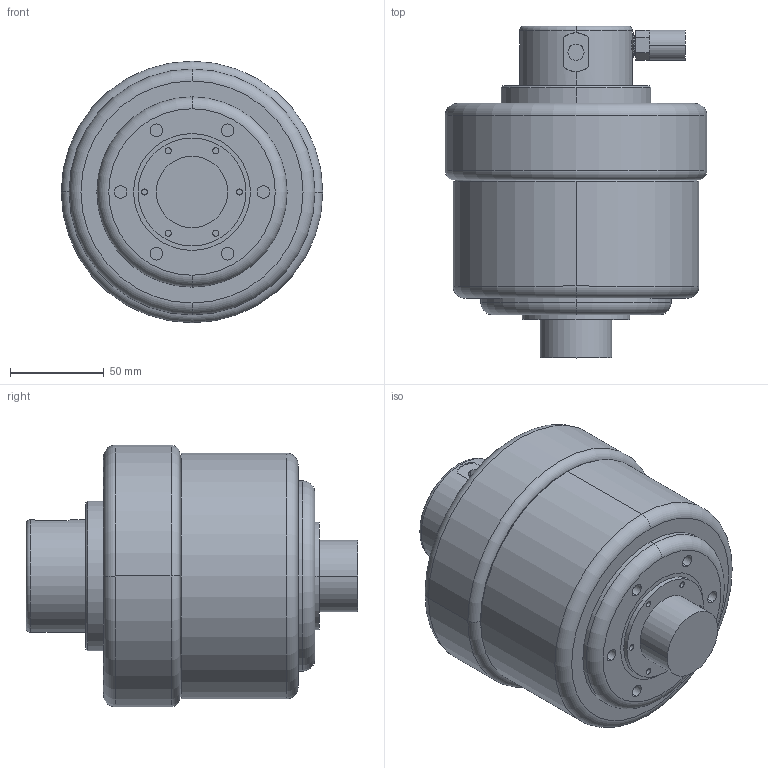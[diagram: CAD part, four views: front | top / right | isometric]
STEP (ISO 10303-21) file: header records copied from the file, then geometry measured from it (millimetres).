
FILE_DESCRIPTION (( 'STEP AP214' ), '1' );
FILE_NAME ('DBU030.STEP', '2014-05-14T21:55:28', ( '' ), ( '' ), 'SwSTEP 2.0', 'SolidWorks 2012', '' );
FILE_SCHEMA (( 'AUTOMOTIVE_DESIGN' ));
Length unit declared in the file: inch
Products named in the file (1): DBU030
Bounding box: 139.7 x 177.22 x 139.7 mm (x, y, z)
Volume: 1708782.2 mm3; surface area: 92451.7 mm2
Topology: 1 solids, 1 shells, 162 faces, 331 edges, 216 vertices
Faces by surface type: cylinder 81, plane 54, cone 17, torus 10
Entity records: 5072 total; most frequent: DIRECTION 855, CARTESIAN_POINT 851, ORIENTED_EDGE 662, AXIS2_PLACEMENT_3D 370, EDGE_CURVE 331, VERTEX_POINT 216, EDGE_LOOP 207, CIRCLE 207
